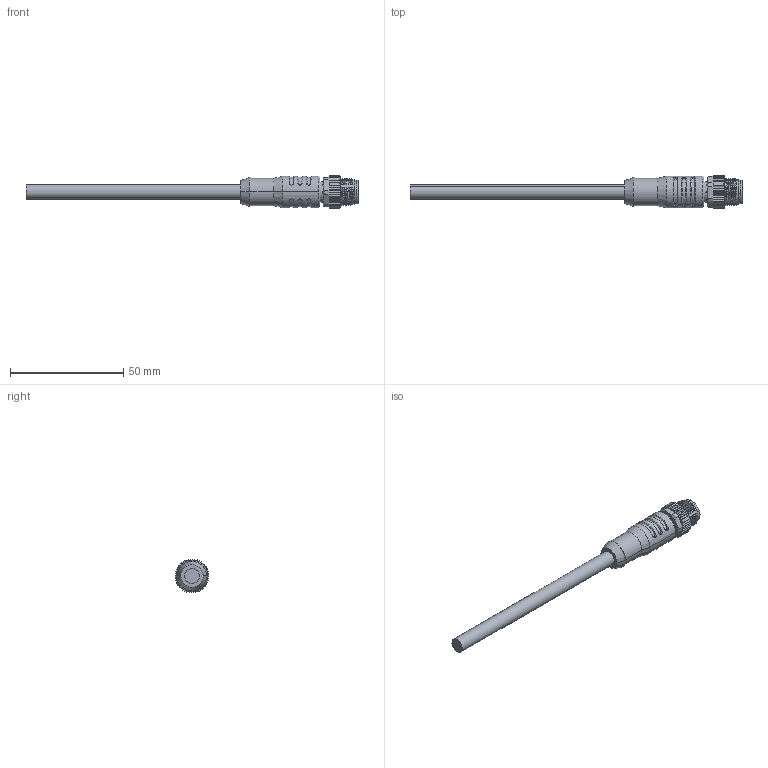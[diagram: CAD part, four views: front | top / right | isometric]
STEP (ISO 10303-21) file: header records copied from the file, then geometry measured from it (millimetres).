
FILE_DESCRIPTION (( 'STEP AP203' ), '1' );
FILE_NAME ('0C4021-XXX.STEP', '2024-11-29T06:41:10', ( 'L' ), ( '' ), 'SwSTEP 2.0', 'SolidWorks 2019', '' );
FILE_SCHEMA (( 'CONFIG_CONTROL_DESIGN' ));
Length unit declared in the file: millimetre
Products named in the file (1): 0C4021-XXX
Bounding box: 146.61 x 15 x 14.99 mm (x, y, z)
Volume: 9256.5 mm3; surface area: 5940.5 mm2
Topology: 1 solids, 1 shells, 740 faces, 2187 edges, 1453 vertices
Faces by surface type: plane 383, cylinder 170, bspline 111, cone 66, torus 10
Entity records: 40939 total; most frequent: CARTESIAN_POINT 22322, ORIENTED_EDGE 4374, DIRECTION 3190, EDGE_CURVE 2187, VERTEX_POINT 1453, AXIS2_PLACEMENT_3D 1113, LINE 964, VECTOR 964
